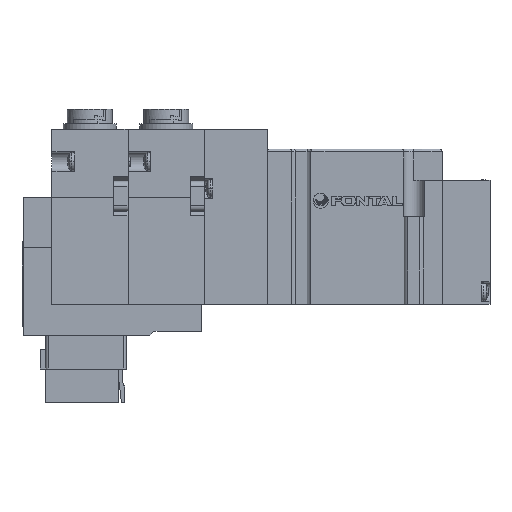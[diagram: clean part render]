
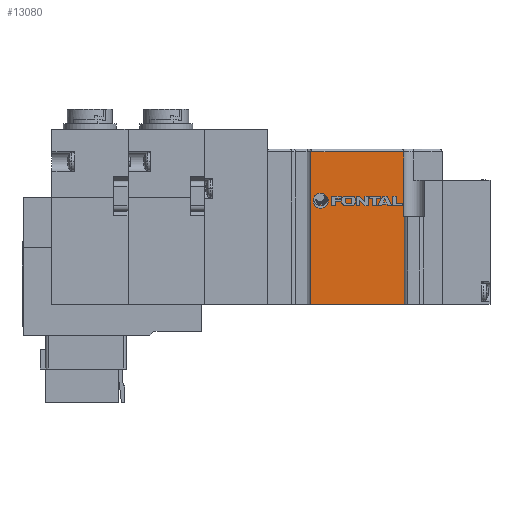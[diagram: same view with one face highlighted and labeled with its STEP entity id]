
A CAD part, top view. The second image highlights one B-rep face of the part: STEP entity #13080.
In plain terms, the highlighted planar face has unit normal (0, 0, 1).
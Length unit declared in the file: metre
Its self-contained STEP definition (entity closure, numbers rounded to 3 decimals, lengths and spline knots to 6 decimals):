
#134 = LINE ( 'NONE', #4808, #13320 ) ;
#422 = CARTESIAN_POINT ( 'NONE',  ( 0.008768, 0., 0.005 ) ) ;
#560 = EDGE_CURVE ( 'NONE', #5319, #2962, #7862, .T. ) ;
#701 = VERTEX_POINT ( 'NONE', #422 ) ;
#934 = DIRECTION ( 'NONE',  ( -1., 0., 0. ) ) ;
#992 = LINE ( 'NONE', #9173, #13823 ) ;
#1120 = FACE_OUTER_BOUND ( 'NONE', #12175, .T. ) ;
#1227 = VERTEX_POINT ( 'NONE', #4509 ) ;
#1252 = PLANE ( 'NONE',  #14370 ) ;
#2259 = LINE ( 'NONE', #8249, #12050 ) ;
#2425 = EDGE_CURVE ( 'NONE', #11965, #2962, #134, .T. ) ;
#2427 = LINE ( 'NONE', #5904, #12240 ) ;
#2442 = LINE ( 'NONE', #5191, #5780 ) ;
#2663 = DIRECTION ( 'NONE',  ( 0., -1., 0. ) ) ;
#2962 = VERTEX_POINT ( 'NONE', #4848 ) ;
#3748 = DIRECTION ( 'NONE',  ( 0., 0., -1. ) ) ;
#4509 = CARTESIAN_POINT ( 'NONE',  ( 0.0087, 0.0155, 0.005 ) ) ;
#4808 = CARTESIAN_POINT ( 'NONE',  ( 0.000466, 0.027, 0.005 ) ) ;
#4848 = CARTESIAN_POINT ( 'NONE',  ( -0.007768, 0.027, 0.005 ) ) ;
#5033 = ORIENTED_EDGE ( 'NONE', *, *, #14372, .F. ) ;
#5191 = CARTESIAN_POINT ( 'NONE',  ( 0.008768, 0.0135, 0.005 ) ) ;
#5319 = VERTEX_POINT ( 'NONE', #7374 ) ;
#5678 = ORIENTED_EDGE ( 'NONE', *, *, #560, .F. ) ;
#5703 = DIRECTION ( 'NONE',  ( 0., -1., 0. ) ) ;
#5780 = VECTOR ( 'NONE', #2663, 1. ) ;
#5800 = ORIENTED_EDGE ( 'NONE', *, *, #14101, .F. ) ;
#5904 = CARTESIAN_POINT ( 'NONE',  ( 0.0005, 0., 0.005 ) ) ;
#6638 = CARTESIAN_POINT ( 'NONE',  ( 0.0087, 0.027, 0.005 ) ) ;
#7374 = CARTESIAN_POINT ( 'NONE',  ( -0.007768, 0., 0.005 ) ) ;
#7862 = LINE ( 'NONE', #15546, #14438 ) ;
#7881 = DIRECTION ( 'NONE',  ( 1., 0., 0. ) ) ;
#8249 = CARTESIAN_POINT ( 'NONE',  ( 0.0087, 0.0135, 0.005 ) ) ;
#9173 = CARTESIAN_POINT ( 'NONE',  ( 0.0105, 0.0155, 0.005 ) ) ;
#9945 = ORIENTED_EDGE ( 'NONE', *, *, #10257, .F. ) ;
#10257 = EDGE_CURVE ( 'NONE', #701, #5319, #2427, .T. ) ;
#10724 = CARTESIAN_POINT ( 'NONE',  ( 0.008768, 0.0155, 0.005 ) ) ;
#11235 = EDGE_CURVE ( 'NONE', #1227, #14586, #992, .T. ) ;
#11408 = CARTESIAN_POINT ( 'NONE',  ( 0.008768, 0., 0.005 ) ) ;
#11965 = VERTEX_POINT ( 'NONE', #6638 ) ;
#12050 = VECTOR ( 'NONE', #5703, 1. ) ;
#12175 = EDGE_LOOP ( 'NONE', ( #13395, #5678, #9945, #5033, #16544, #5800 ) ) ;
#12240 = VECTOR ( 'NONE', #15020, 1. ) ;
#12749 = DIRECTION ( 'NONE',  ( -1., 0., 0. ) ) ;
#13080 = ADVANCED_FACE ( 'NONE', ( #1120 ), #1252, .F. ) ;
#13320 = VECTOR ( 'NONE', #934, 1. ) ;
#13395 = ORIENTED_EDGE ( 'NONE', *, *, #2425, .T. ) ;
#13823 = VECTOR ( 'NONE', #7881, 1. ) ;
#14101 = EDGE_CURVE ( 'NONE', #11965, #1227, #2259, .T. ) ;
#14370 = AXIS2_PLACEMENT_3D ( 'NONE', #11408, #3748, #12749 ) ;
#14372 = EDGE_CURVE ( 'NONE', #14586, #701, #2442, .T. ) ;
#14438 = VECTOR ( 'NONE', #15594, 1. ) ;
#14586 = VERTEX_POINT ( 'NONE', #10724 ) ;
#15020 = DIRECTION ( 'NONE',  ( -1., 0., 0. ) ) ;
#15546 = CARTESIAN_POINT ( 'NONE',  ( -0.007768, 0.0135, 0.005 ) ) ;
#15594 = DIRECTION ( 'NONE',  ( 0., 1., 0. ) ) ;
#16544 = ORIENTED_EDGE ( 'NONE', *, *, #11235, .F. ) ;
